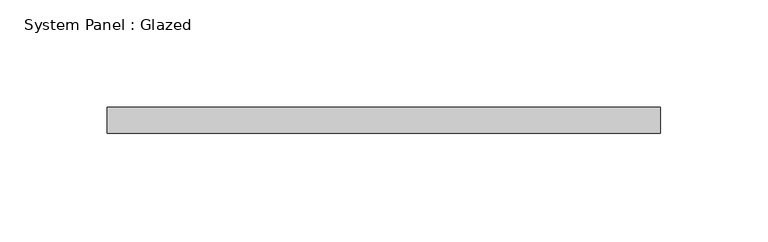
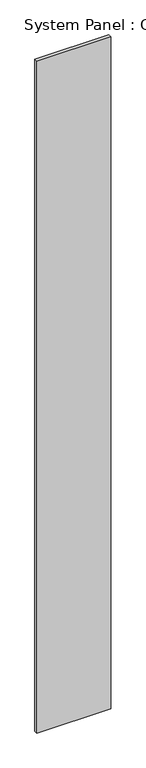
"""IFC4 building model written with IfcOpenShell, lengths in millimetres: plate geometry, System Panel : Glazed."""

from ifc_helpers import new_model, si_unit, origin, origin_with_axes, place, context, project, spatial, polyline, outline, extrude, source, transform, mapped, element, save


def system_panel_glazed_7791b898(model_context):
    return source(origin(), model_context, "Body", "SweptSolid", [
        extrude(outline(polyline([(128.7405078, 4.0), (-128.7405078, 4.0), (-128.7405078, 16.0), (128.7405078, 16.0), (128.7405078, 4.0)])), origin_with_axes(), (0.0, 0.0, 1.0), 2475.6124286),
    ])


if __name__ == "__main__":
    model = new_model("IFC4")
    model_context = context("Model", 3, world=origin())
    ifc_project = project(units=[si_unit("LENGTHUNIT", "METRE", prefix="MILLI")], contexts=[model_context])
    site = spatial("IfcSite", under=ifc_project)
    building = spatial("IfcBuilding", under=site)
    placement = place(None, origin())
    system_panel_glazed_shape = system_panel_glazed_7791b898(model_context)
    element("IfcPlate", 1, ObjectType="System Panel : Glazed", at=placement, inside=building, context=model_context, shape_type="MappedRepresentation", body=[
        mapped(system_panel_glazed_shape, transform((0.0, 0.0, 0.0), x_axis=(1.0, 0.0, 0.0), y_axis=(0.0, 1.0, 0.0), z_axis=(0.0, 0.0, 1.0))),
    ])
    save(model, "model.ifc")
